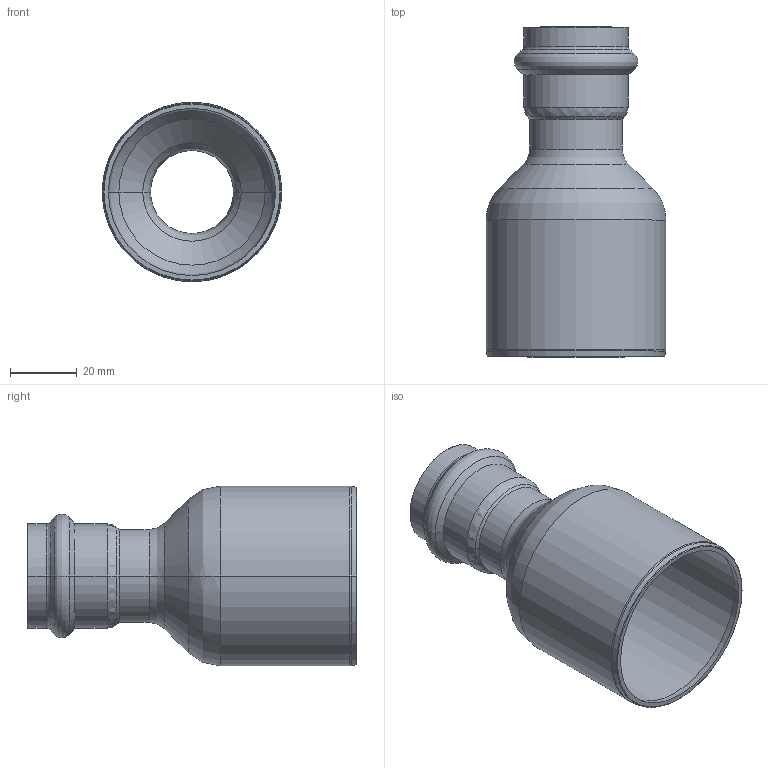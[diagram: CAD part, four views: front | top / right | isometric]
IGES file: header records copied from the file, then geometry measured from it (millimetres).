
Start section: Elysium IGES Interface
Global section: file name: C:\3d modellen sudo\C-Pr VP\SP8243V\8243VW5428.igs; native system: CoCreate Modeling 17.00A  17-Jun-2010; preprocessor: CoCreate IGES_3D V2.2; author: Unknown; organization: Unknown; date: 20130305.094456; units: millimetre
Bounding box: 54 x 99.11 x 54 mm (x, y, z)
Volume: 22647.9 mm3; surface area: 27751 mm2
Topology: 1 solids, 1 shells, 73 faces, 150 edges, 82 vertices
Faces by surface type: bspline 73
